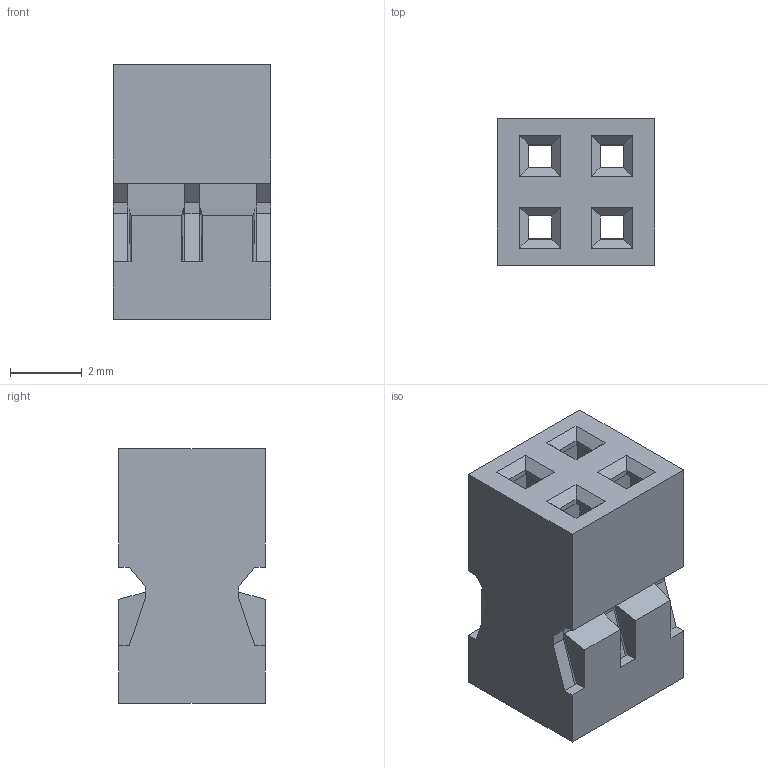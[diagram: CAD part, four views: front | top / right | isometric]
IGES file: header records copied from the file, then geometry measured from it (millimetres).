
Start section:  PTC IGES file: 69307-004_sw0001.igs
Global section: file name: 69307-004_sw0001.igs; native system: Pro/ENGINEER by Parametric Technology Corporation; preprocessor: 2005380; author: lpotteiger; organization: Unknown; date: 071204.081440; units: millimetre
Bounding box: 4.4 x 4.1 x 7.1 mm (x, y, z)
Volume: 64.1 mm3; surface area: 310.9 mm2
Topology: 1 solids, 1 shells, 110 faces, 296 edges, 184 vertices
Faces by surface type: bspline 110
